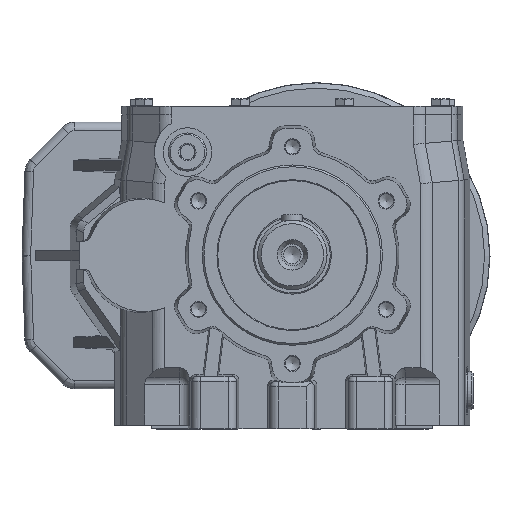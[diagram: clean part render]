
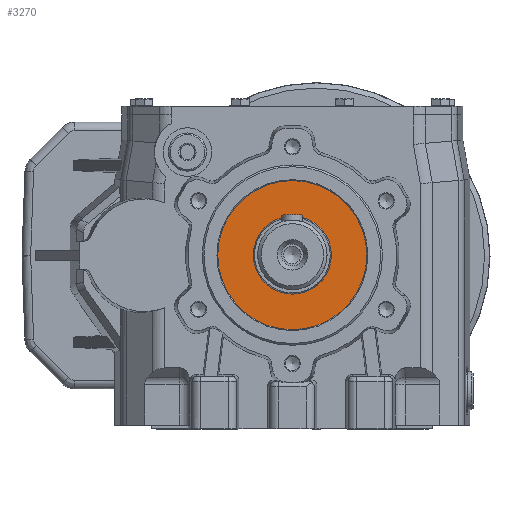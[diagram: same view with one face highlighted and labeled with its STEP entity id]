
A CAD part, top view. The second image highlights one B-rep face of the part: STEP entity #3270.
In plain terms, the highlighted planar face has unit normal (0, 0, 1).
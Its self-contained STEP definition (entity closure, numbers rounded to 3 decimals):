
#3270 = ADVANCED_FACE( '', ( #7054, #7055 ), #7056, .F. );
#7054 = FACE_BOUND( '', #16829, .T. );
#7055 = FACE_OUTER_BOUND( '', #16830, .T. );
#7056 = PLANE( '', #16831 );
#16829 = EDGE_LOOP( '', ( #26782 ) );
#16830 = EDGE_LOOP( '', ( #26783 ) );
#16831 = AXIS2_PLACEMENT_3D( '', #26784, #26785, #26786 );
#26782 = ORIENTED_EDGE( '', *, *, #31981, .F. );
#26783 = ORIENTED_EDGE( '', *, *, #31727, .T. );
#26784 = CARTESIAN_POINT( '', ( 0., 42.5, 12.5 ) );
#26785 = DIRECTION( '', ( 0., 0., -1. ) );
#26786 = DIRECTION( '', ( 1., 0., 0. ) );
#31727 = EDGE_CURVE( '', #37228, #37228, #37229, .F. );
#31981 = EDGE_CURVE( '', #37538, #37538, #37539, .T. );
#37228 = VERTEX_POINT( '', #46988 );
#37229 = CIRCLE( '', #46989, 43. );
#37538 = VERTEX_POINT( '', #47563 );
#37539 = CIRCLE( '', #47564, 22.5 );
#46988 = CARTESIAN_POINT( '', ( 0., 43., 12.5 ) );
#46989 = AXIS2_PLACEMENT_3D( '', #52362, #52363, #52364 );
#47563 = CARTESIAN_POINT( '', ( 22.5, 0., 12.5 ) );
#47564 = AXIS2_PLACEMENT_3D( '', #52634, #52635, #52636 );
#52362 = CARTESIAN_POINT( '', ( 0., 0., 12.5 ) );
#52363 = DIRECTION( '', ( 0., 0., -1. ) );
#52364 = DIRECTION( '', ( 0., 1., 0. ) );
#52634 = CARTESIAN_POINT( '', ( 0., 0., 12.5 ) );
#52635 = DIRECTION( '', ( 0., 0., 1. ) );
#52636 = DIRECTION( '', ( 1., 0., 0. ) );
